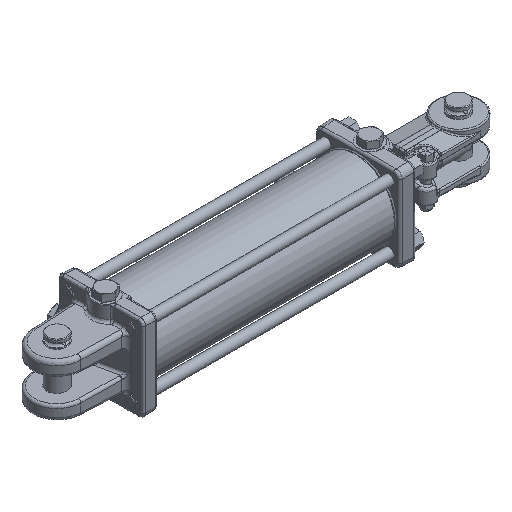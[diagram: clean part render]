
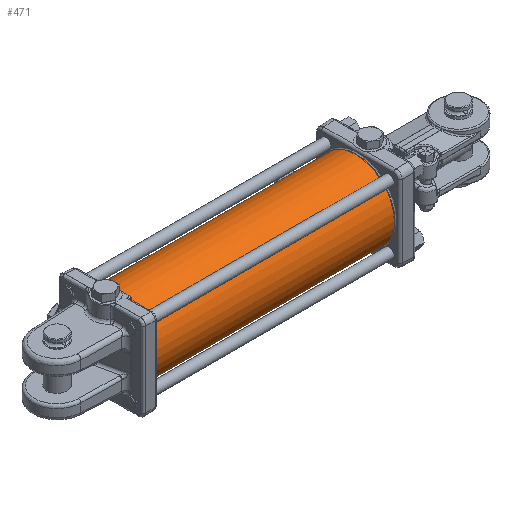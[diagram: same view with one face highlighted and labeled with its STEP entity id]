
A CAD part, isometric view. The second image highlights one B-rep face of the part: STEP entity #471.
In plain terms, the highlighted cylindrical face has radius 49.212 mm (diameter 98.425 mm), a full revolution.
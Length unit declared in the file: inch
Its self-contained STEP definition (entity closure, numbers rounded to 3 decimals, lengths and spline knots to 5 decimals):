
#210=CARTESIAN_POINT('',(-0.842,1.93673,0.0545));
#211=VERTEX_POINT('',#210);
#212=CARTESIAN_POINT('',(-0.842,1.93673,0.0545));
#213=CARTESIAN_POINT('',(-0.84884,1.93673,0.0545));
#214=CARTESIAN_POINT('',(-0.85614,1.93677,0.05313));
#215=CARTESIAN_POINT('',(-0.86957,1.93692,0.04757));
#216=CARTESIAN_POINT('',(-0.8757,1.93702,0.04338));
#217=CARTESIAN_POINT('',(-0.88538,1.93721,0.0337));
#218=CARTESIAN_POINT('',(-0.88957,1.93732,0.02757));
#219=CARTESIAN_POINT('',(-0.89513,1.93746,0.01414));
#220=CARTESIAN_POINT('',(-0.8965,1.9375,0.00684));
#221=CARTESIAN_POINT('',(-0.8965,1.9375,-0.00684));
#222=CARTESIAN_POINT('',(-0.89513,1.93746,-0.01414));
#223=CARTESIAN_POINT('',(-0.88957,1.93732,-0.02757));
#224=CARTESIAN_POINT('',(-0.88538,1.93721,-0.0337));
#225=CARTESIAN_POINT('',(-0.8757,1.93702,-0.04338));
#226=CARTESIAN_POINT('',(-0.86957,1.93692,-0.04757));
#227=CARTESIAN_POINT('',(-0.85614,1.93677,-0.05313));
#228=CARTESIAN_POINT('',(-0.84884,1.93673,-0.0545));
#229=CARTESIAN_POINT('',(-0.83516,1.93673,-0.0545));
#230=CARTESIAN_POINT('',(-0.82786,1.93677,-0.05313));
#231=CARTESIAN_POINT('',(-0.81443,1.93692,-0.04757));
#232=CARTESIAN_POINT('',(-0.8083,1.93702,-0.04338));
#233=CARTESIAN_POINT('',(-0.79862,1.93721,-0.0337));
#234=CARTESIAN_POINT('',(-0.79443,1.93732,-0.02757));
#235=CARTESIAN_POINT('',(-0.78887,1.93746,-0.01414));
#236=CARTESIAN_POINT('',(-0.7875,1.9375,-0.00684));
#237=CARTESIAN_POINT('',(-0.7875,1.9375,0.00684));
#238=CARTESIAN_POINT('',(-0.78887,1.93746,0.01414));
#239=CARTESIAN_POINT('',(-0.79443,1.93732,0.02757));
#240=CARTESIAN_POINT('',(-0.79862,1.93721,0.0337));
#241=CARTESIAN_POINT('',(-0.8083,1.93702,0.04338));
#242=CARTESIAN_POINT('',(-0.81443,1.93692,0.04757));
#243=CARTESIAN_POINT('',(-0.82786,1.93677,0.05313));
#244=CARTESIAN_POINT('',(-0.83516,1.93673,0.0545));
#245=CARTESIAN_POINT('',(-0.842,1.93673,0.0545));
#246=B_SPLINE_CURVE_WITH_KNOTS('',3,(#212,#213,#214,#215,#216,#217,#218,#219,#220,#221,#222,#223,#224,#225,#226,#227,#228,#229,#230,#231,#232,#233,#234,#235,#236,#237,#238,#239,#240,#241,#242,#243,#244,#245),.UNSPECIFIED.,.T.,.U.,(4,2,2,2,2,2,2,2,2,2,2,2,2,2,2,2,4),(0.0,0.05215,0.1043,0.15644,0.20859,0.26074,0.31289,0.36503,0.41718,0.46933,0.52148,0.57362,0.62577,0.67792,0.73007,0.78222,0.83436),.UNSPECIFIED.);
#247=EDGE_CURVE('',#211,#211,#246,.T.);
#298=CARTESIAN_POINT('',(-1.222,1.93725,0.031));
#299=VERTEX_POINT('',#298);
#300=CARTESIAN_POINT('',(-1.222,1.93725,0.031));
#301=CARTESIAN_POINT('',(-1.22589,1.93725,0.031));
#302=CARTESIAN_POINT('',(-1.23004,1.93726,0.03022));
#303=CARTESIAN_POINT('',(-1.23768,1.93731,0.02706));
#304=CARTESIAN_POINT('',(-1.24117,1.93734,0.02467));
#305=CARTESIAN_POINT('',(-1.24667,1.93741,0.01917));
#306=CARTESIAN_POINT('',(-1.24906,1.93744,0.01568));
#307=CARTESIAN_POINT('',(-1.25222,1.93749,0.00804));
#308=CARTESIAN_POINT('',(-1.253,1.9375,0.00389));
#309=CARTESIAN_POINT('',(-1.253,1.9375,-0.00389));
#310=CARTESIAN_POINT('',(-1.25222,1.93749,-0.00804));
#311=CARTESIAN_POINT('',(-1.24906,1.93744,-0.01568));
#312=CARTESIAN_POINT('',(-1.24667,1.93741,-0.01917));
#313=CARTESIAN_POINT('',(-1.24117,1.93734,-0.02467));
#314=CARTESIAN_POINT('',(-1.23768,1.93731,-0.02706));
#315=CARTESIAN_POINT('',(-1.23004,1.93726,-0.03022));
#316=CARTESIAN_POINT('',(-1.22589,1.93725,-0.031));
#317=CARTESIAN_POINT('',(-1.21811,1.93725,-0.031));
#318=CARTESIAN_POINT('',(-1.21396,1.93726,-0.03022));
#319=CARTESIAN_POINT('',(-1.20632,1.93731,-0.02706));
#320=CARTESIAN_POINT('',(-1.20283,1.93734,-0.02467));
#321=CARTESIAN_POINT('',(-1.19733,1.93741,-0.01917));
#322=CARTESIAN_POINT('',(-1.19494,1.93744,-0.01568));
#323=CARTESIAN_POINT('',(-1.19178,1.93749,-0.00804));
#324=CARTESIAN_POINT('',(-1.191,1.9375,-0.00389));
#325=CARTESIAN_POINT('',(-1.191,1.9375,0.00389));
#326=CARTESIAN_POINT('',(-1.19178,1.93749,0.00804));
#327=CARTESIAN_POINT('',(-1.19494,1.93744,0.01568));
#328=CARTESIAN_POINT('',(-1.19733,1.93741,0.01917));
#329=CARTESIAN_POINT('',(-1.20283,1.93734,0.02467));
#330=CARTESIAN_POINT('',(-1.20632,1.93731,0.02706));
#331=CARTESIAN_POINT('',(-1.21396,1.93726,0.03022));
#332=CARTESIAN_POINT('',(-1.21811,1.93725,0.031));
#333=CARTESIAN_POINT('',(-1.222,1.93725,0.031));
#334=B_SPLINE_CURVE_WITH_KNOTS('',3,(#300,#301,#302,#303,#304,#305,#306,#307,#308,#309,#310,#311,#312,#313,#314,#315,#316,#317,#318,#319,#320,#321,#322,#323,#324,#325,#326,#327,#328,#329,#330,#331,#332,#333),.UNSPECIFIED.,.T.,.U.,(4,2,2,2,2,2,2,2,2,2,2,2,2,2,2,2,4),(0.0,0.02966,0.05932,0.08898,0.11864,0.1483,0.17797,0.20763,0.23729,0.26695,0.29661,0.32627,0.35593,0.38559,0.41525,0.44491,0.47457),.UNSPECIFIED.);
#335=EDGE_CURVE('',#299,#299,#334,.T.);
#345=CARTESIAN_POINT('',(0.,1.9375,0.0));
#346=VERTEX_POINT('',#345);
#347=CARTESIAN_POINT('',(0.,0.0,0.0));
#348=DIRECTION('',(1.0,0.0,0.0));
#349=DIRECTION('',(0.0,1.0,0.0));
#350=AXIS2_PLACEMENT_3D('',#347,#348,#349);
#351=CIRCLE('',#350,1.9375);
#352=EDGE_CURVE('',#346,#346,#351,.T.);
#439=CARTESIAN_POINT('',(-12.093,1.9375,0.0));
#440=VERTEX_POINT('',#439);
#441=CARTESIAN_POINT('',(-12.093,0.0,0.0));
#442=DIRECTION('',(1.0,0.0,0.0));
#443=DIRECTION('',(0.0,1.0,0.0));
#444=AXIS2_PLACEMENT_3D('',#441,#442,#443);
#445=CIRCLE('',#444,1.9375);
#446=EDGE_CURVE('',#440,#440,#445,.T.);
#454=CARTESIAN_POINT('',(-6.0465,0.0,0.0));
#455=DIRECTION('',(1.0,0.0,0.0));
#456=DIRECTION('',(0.0,1.0,0.0));
#457=AXIS2_PLACEMENT_3D('',#454,#455,#456);
#458=CYLINDRICAL_SURFACE('',#457,1.9375);
#459=ORIENTED_EDGE('',*,*,#352,.F.);
#460=EDGE_LOOP('',(#459));
#461=FACE_OUTER_BOUND('',#460,.T.);
#462=ORIENTED_EDGE('',*,*,#247,.T.);
#463=EDGE_LOOP('',(#462));
#464=FACE_BOUND('',#463,.T.);
#465=ORIENTED_EDGE('',*,*,#335,.T.);
#466=EDGE_LOOP('',(#465));
#467=FACE_BOUND('',#466,.T.);
#468=ORIENTED_EDGE('',*,*,#446,.T.);
#469=EDGE_LOOP('',(#468));
#470=FACE_BOUND('',#469,.T.);
#471=ADVANCED_FACE('',(#461,#464,#467,#470),#458,.T.);
